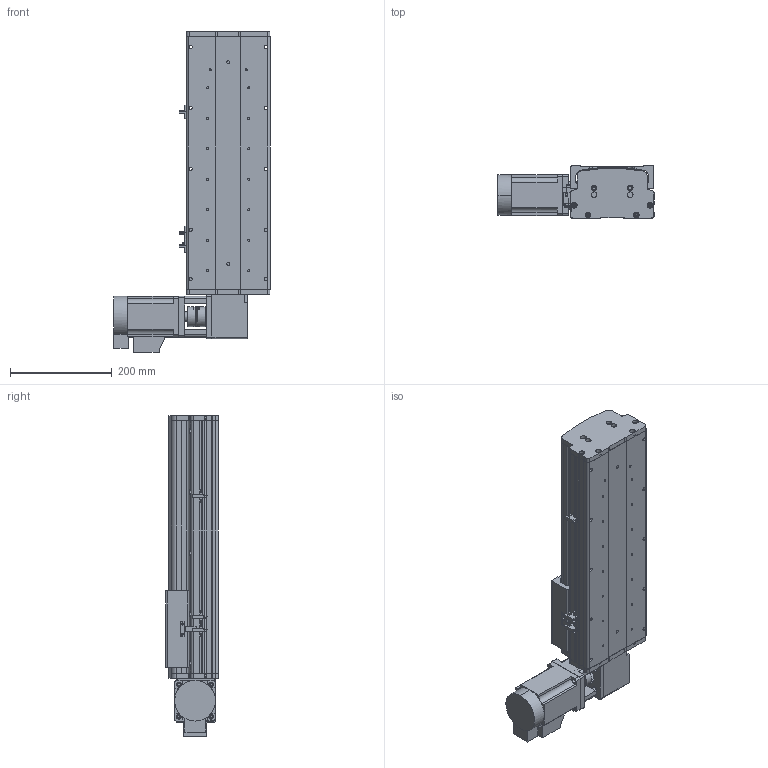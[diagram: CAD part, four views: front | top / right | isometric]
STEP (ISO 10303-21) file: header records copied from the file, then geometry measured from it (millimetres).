
FILE_DESCRIPTION (( 'STEP AP214' ), '1' );
FILE_NAME ('KSD165B-S250-MRT-CM .STEP', '2017-10-17T01:04:09', ( '微软用户' ), ( '微软中国' ), 'SwSTEP 2.0', 'SolidWorks 2014', '' );
FILE_SCHEMA (( 'AUTOMOTIVE_DESIGN' ));
Length unit declared in the file: millimetre
Products named in the file (16): KSD165模组-同步带滑动座-最新版; KSD165B-S250-MRT-CM ; 165宽马达安装板同步带左-改; KSD165模组-同步带防尘盖1-250行程-最新版; KSD165模组同步带底板-250行程-最新; 拸秶雄ん750W侜督萇儂; 165宽安装板同步带带电机座750W; C39ㄜ1419WP; U倰嫖萇假蚾璃; U倰嫖萇EEㄜSX672; 覜茼え68遵圉猾敕; KSD165模组-同步带-防撞垫2; KSD165模组同步带-防撞垫1; KSD165耀郪-ヶ傷啣1-肮祭湍; KSD165模组-后端板1-同步带; 130宽马达安装板1-带电机座750W（1）
Assembly tree (19 placements, depth 2):
  KSD165B-S250-MRT-CM 
    KSD165模组-同步带滑动座-最新版
    130宽马达安装板1-带电机座750W（1）
    KSD165模组-后端板1-同步带
    KSD165耀郪-ヶ傷啣1-肮祭湍
    KSD165模组同步带-防撞垫1
    KSD165模组-同步带-防撞垫2
    覜茼え68遵圉猾敕
    U倰嫖萇EEㄜSX672  x3
    U倰嫖萇假蚾璃  x3
    C39ㄜ1419WP
    165宽安装板同步带带电机座750W
    拸秶雄ん750W侜督萇儂
    KSD165模组同步带底板-250行程-最新
    KSD165模组-同步带防尘盖1-250行程-最新版
    165宽马达安装板同步带左-改
Bounding box: 307.5 x 104 x 631.06 mm (x, y, z)
Volume: 4499354.6 mm3; surface area: 985749 mm2
Topology: 20 solids, 21 shells, 1406 faces, 3888 edges, 2513 vertices
Faces by surface type: cylinder 741, plane 571, cone 94
Entity records: 43763 total; most frequent: CARTESIAN_POINT 9199, DIRECTION 6846, ORIENTED_EDGE 6428, EDGE_CURVE 3214, AXIS2_PLACEMENT_3D 2584, VERTEX_POINT 2105, LINE 1678, VECTOR 1678
